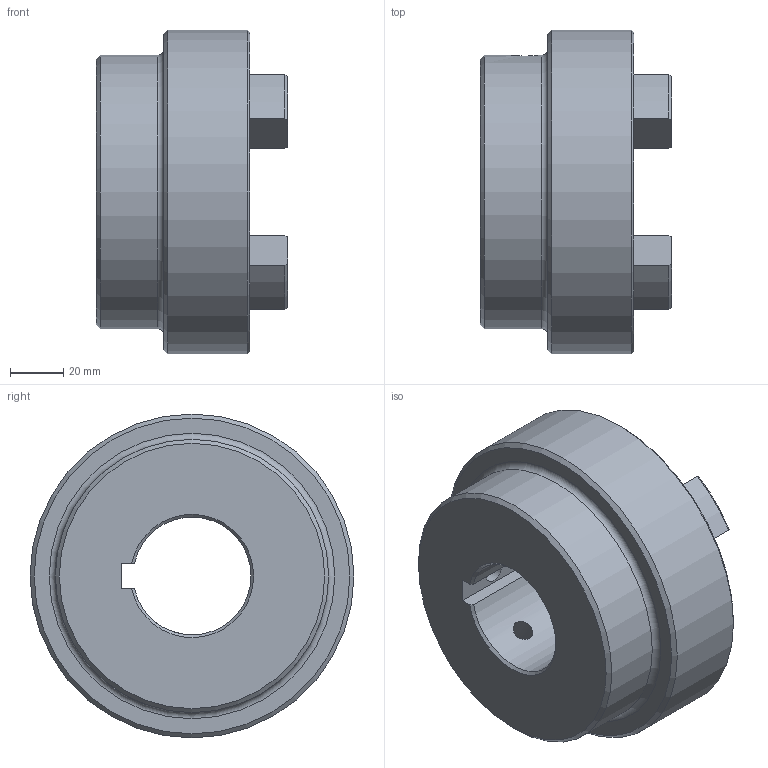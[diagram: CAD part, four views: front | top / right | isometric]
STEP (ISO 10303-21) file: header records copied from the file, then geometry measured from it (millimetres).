
FILE_DESCRIPTION (( 'STEP AP203' ), '1' );
FILE_NAME ('RC5.step', '2024-07-25T13:36:49', ( 'Adlan' ), ( '' ), 'SwSTEP 2.0', 'SolidWorks 2013', '' );
FILE_SCHEMA (( 'CONFIG_CONTROL_DESIGN' ));
Length unit declared in the file: inch
Products named in the file (1): RC5
Bounding box: 72.14 x 122.17 x 122.17 mm (x, y, z)
Volume: 411099.6 mm3; surface area: 59782.7 mm2
Topology: 1 solids, 1 shells, 83 faces, 210 edges, 131 vertices
Faces by surface type: cylinder 33, plane 19, torus 17, cone 14
Full cylindrical faces by diameter (mm): 7.937 x2, 103.124 x1, 122.174 x1
Entity records: 2789 total; most frequent: CARTESIAN_POINT 708, DIRECTION 446, ORIENTED_EDGE 394, EDGE_CURVE 197, AXIS2_PLACEMENT_3D 178, VERTEX_POINT 128, EDGE_LOOP 101, CIRCLE 94
